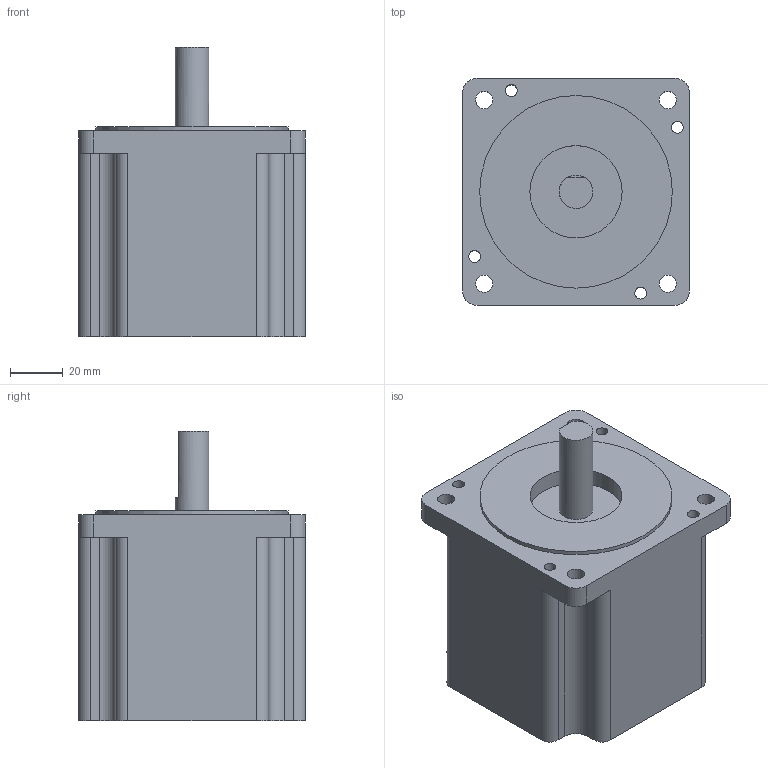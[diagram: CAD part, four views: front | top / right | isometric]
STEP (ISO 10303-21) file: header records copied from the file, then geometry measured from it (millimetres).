
FILE_DESCRIPTION(/* description */ (''),/* implementation_level */ '2;1');
FILE_NAME(/* name */ 'C:\Users\raffaele\Downloads\Projects\E&D\ipt-to-step-conversion\SLDPRT to STP\86SH80.stp',/* time_stamp */ '2021-04-07T17:16:35+02:00',/* author */ ('raffaele'),/* organization */ (''),/* preprocessor_version */ 'ST-DEVELOPER v18.1',/* originating_system */ 'Autodesk Inventor 2021',/* authorisation */ '');
FILE_SCHEMA (('AUTOMOTIVE_DESIGN { 1 0 10303 214 3 1 1 }'));
Length unit declared in the file: millimetre
Products named in the file (1): 86SH80
Bounding box: 86 x 86 x 109.85 mm (x, y, z)
Volume: 521235.7 mm3; surface area: 46954.3 mm2
Topology: 1 solids, 1 shells, 50 faces, 135 edges, 90 vertices
Faces by surface type: cylinder 27, plane 23
Full cylindrical faces by diameter (mm): 4.5 x4, 6.5 x4, 12.7 x1, 35 x1, 73 x1
Entity records: 1668 total; most frequent: DIRECTION 293, CARTESIAN_POINT 276, ORIENTED_EDGE 270, EDGE_CURVE 135, AXIS2_PLACEMENT_3D 107, VERTEX_POINT 90, LINE 79, VECTOR 79
